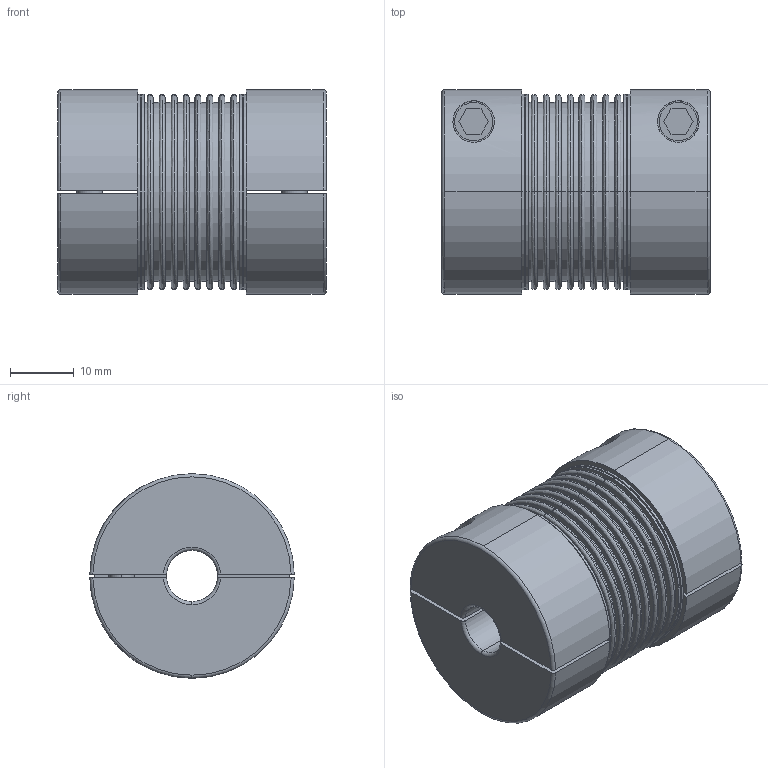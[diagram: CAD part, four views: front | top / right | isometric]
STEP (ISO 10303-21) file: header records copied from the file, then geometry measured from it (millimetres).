
FILE_DESCRIPTION (( 'STEP AP203' ), '1' );
FILE_NAME ('GMT-FACB32.STEP', '2008-04-17T03:17:34', ( 'user' ), ( '' ), 'SwSTEP 2.0', 'SolidWorks 2007', '' );
FILE_SCHEMA (( 'CONFIG_CONTROL_DESIGN' ));
Length unit declared in the file: millimetre
Products named in the file (1): GMT-FACB32
Bounding box: 42 x 31.99 x 32 mm (x, y, z)
Volume: 26403.9 mm3; surface area: 10581.4 mm2
Topology: 1 solids, 1 shells, 171 faces, 385 edges, 247 vertices
Faces by surface type: plane 65, cylinder 62, bspline 32, torus 12
Entity records: 5533 total; most frequent: CARTESIAN_POINT 1702, DIRECTION 802, ORIENTED_EDGE 770, EDGE_CURVE 385, AXIS2_PLACEMENT_3D 335, VERTEX_POINT 247, EDGE_LOOP 208, CIRCLE 195
